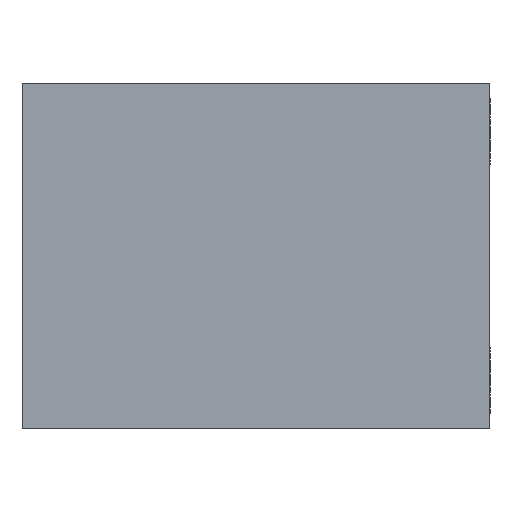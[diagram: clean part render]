
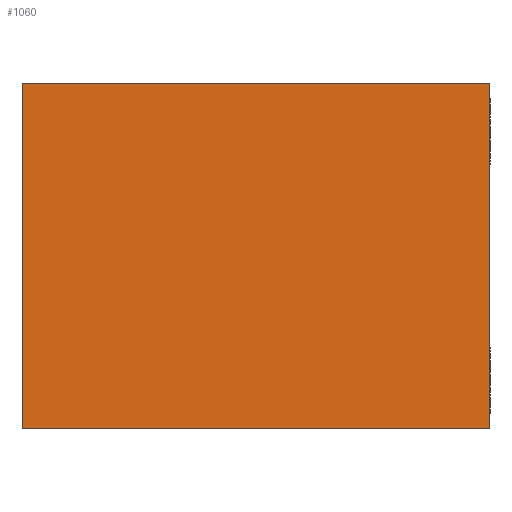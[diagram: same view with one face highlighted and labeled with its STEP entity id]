
A CAD part, left-side view. The second image highlights one B-rep face of the part: STEP entity #1060.
In plain terms, the highlighted planar face has unit normal (-1, 0, 0).
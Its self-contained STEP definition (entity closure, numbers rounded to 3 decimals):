
#101 = LINE ( 'NONE', #1654, #787 ) ;
#117 = CARTESIAN_POINT ( 'NONE',  ( -50., -40., -29.5 ) ) ;
#184 = LINE ( 'NONE', #2124, #1511 ) ;
#242 = CARTESIAN_POINT ( 'NONE',  ( -50., 40., -29.5 ) ) ;
#273 = EDGE_CURVE ( 'NONE', #718, #1465, #184, .T. ) ;
#477 = EDGE_CURVE ( 'NONE', #1465, #1649, #101, .T. ) ;
#551 = CARTESIAN_POINT ( 'NONE',  ( -50., 40., 29.5 ) ) ;
#557 = CARTESIAN_POINT ( 'NONE',  ( -50., -40., -29.5 ) ) ;
#660 = DIRECTION ( 'NONE',  ( 0., 0., 1. ) ) ;
#670 = DIRECTION ( 'NONE',  ( -1., 0., 0. ) ) ;
#718 = VERTEX_POINT ( 'NONE', #242 ) ;
#741 = LINE ( 'NONE', #557, #1562 ) ;
#762 = ORIENTED_EDGE ( 'NONE', *, *, #1612, .T. ) ;
#787 = VECTOR ( 'NONE', #956, 1000. ) ;
#819 = CARTESIAN_POINT ( 'NONE',  ( -50., -40., -29.5 ) ) ;
#824 = VECTOR ( 'NONE', #660, 1000. ) ;
#833 = PLANE ( 'NONE',  #1746 ) ;
#858 = VERTEX_POINT ( 'NONE', #117 ) ;
#872 = EDGE_LOOP ( 'NONE', ( #762, #1308, #2274, #1152 ) ) ;
#956 = DIRECTION ( 'NONE',  ( 0., -1., 0. ) ) ;
#973 = CARTESIAN_POINT ( 'NONE',  ( -50., -40., -29.5 ) ) ;
#1060 = ADVANCED_FACE ( 'NONE', ( #1878 ), #833, .T. ) ;
#1095 = DIRECTION ( 'NONE',  ( 0., -1., 0. ) ) ;
#1152 = ORIENTED_EDGE ( 'NONE', *, *, #1814, .T. ) ;
#1218 = CARTESIAN_POINT ( 'NONE',  ( -50., -40., 29.5 ) ) ;
#1308 = ORIENTED_EDGE ( 'NONE', *, *, #477, .F. ) ;
#1356 = DIRECTION ( 'NONE',  ( 0., -1., 0. ) ) ;
#1465 = VERTEX_POINT ( 'NONE', #551 ) ;
#1511 = VECTOR ( 'NONE', #1807, 1000. ) ;
#1562 = VECTOR ( 'NONE', #1095, 1000. ) ;
#1612 = EDGE_CURVE ( 'NONE', #858, #1649, #1684, .T. ) ;
#1649 = VERTEX_POINT ( 'NONE', #1218 ) ;
#1654 = CARTESIAN_POINT ( 'NONE',  ( -50., -40., 29.5 ) ) ;
#1684 = LINE ( 'NONE', #819, #824 ) ;
#1746 = AXIS2_PLACEMENT_3D ( 'NONE', #973, #670, #1356 ) ;
#1807 = DIRECTION ( 'NONE',  ( 0., 0., 1. ) ) ;
#1814 = EDGE_CURVE ( 'NONE', #718, #858, #741, .T. ) ;
#1878 = FACE_OUTER_BOUND ( 'NONE', #872, .T. ) ;
#2124 = CARTESIAN_POINT ( 'NONE',  ( -50., 40., -29.5 ) ) ;
#2274 = ORIENTED_EDGE ( 'NONE', *, *, #273, .F. ) ;
